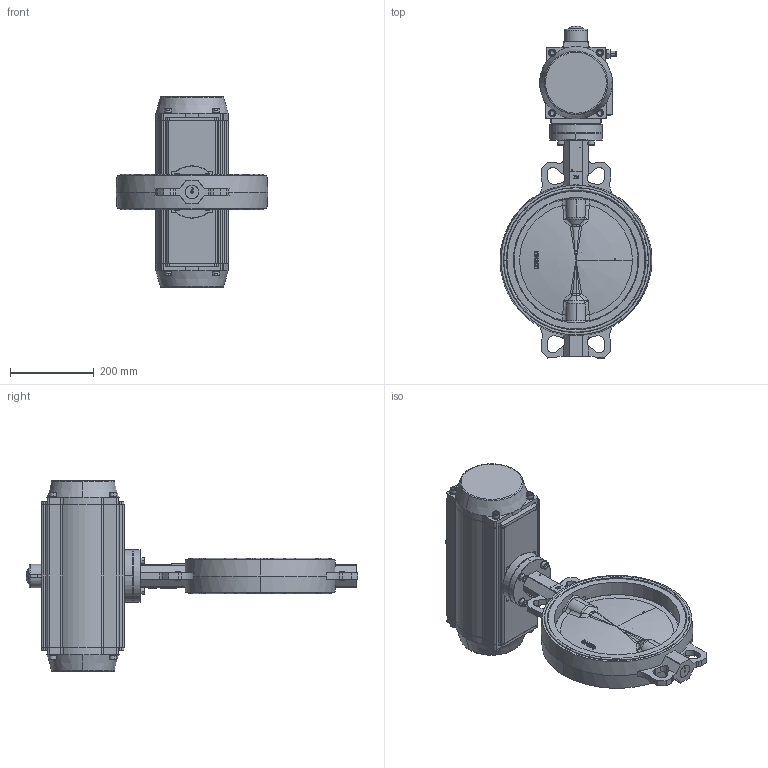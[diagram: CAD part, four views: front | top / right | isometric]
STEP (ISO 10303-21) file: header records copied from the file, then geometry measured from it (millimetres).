
FILE_DESCRIPTION (( 'STEP AP203' ), '1' );
FILE_NAME ('VPI-N03 DN300.step', '2016-09-29T15:06:08', ( 'TECOFI' ), ( '' ), 'SwSTEP 2.0', 'SolidWorks 2014', '' );
FILE_SCHEMA (( 'CONFIG_CONTROL_DESIGN' ));
Length unit declared in the file: millimetre
Products named in the file (1): VPI-N03 DN300
Bounding box: 363 x 793.67 x 456 mm (x, y, z)
Volume: 9628527.6 mm3; surface area: 1506689.2 mm2
Topology: 58 solids, 59 shells, 2580 faces, 6728 edges, 4350 vertices
Faces by surface type: plane 974, cylinder 802, bspline 517, cone 263, torus 24
Entity records: 117602 total; most frequent: CARTESIAN_POINT 57894, ORIENTED_EDGE 13340, DIRECTION 11122, EDGE_CURVE 6670, VERTEX_POINT 4348, AXIS2_PLACEMENT_3D 4138, VECTOR 2846, LINE 2846
